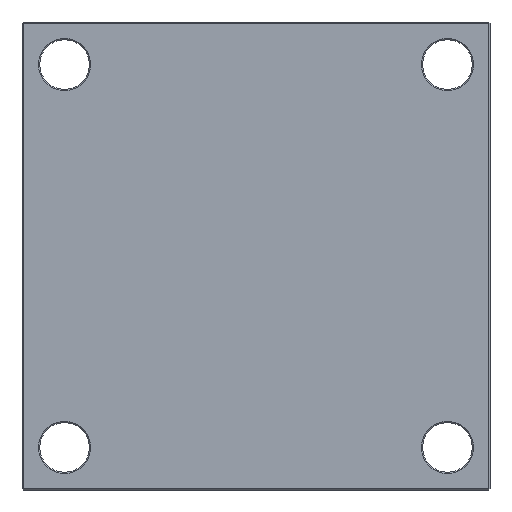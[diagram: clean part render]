
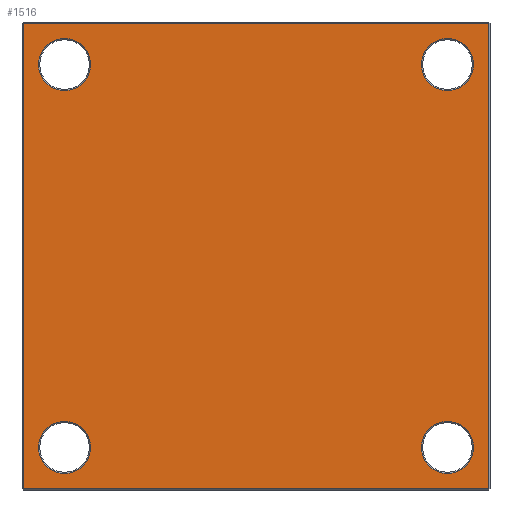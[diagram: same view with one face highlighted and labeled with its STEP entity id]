
A CAD part, front view. The second image highlights one B-rep face of the part: STEP entity #1516.
In plain terms, the highlighted planar face has unit normal (0, -1, 0).
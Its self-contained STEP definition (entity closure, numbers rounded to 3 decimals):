
#7 = CARTESIAN_POINT ( 'NONE',  ( 162., 0., 162. ) ) ;
#16 = CARTESIAN_POINT ( 'NONE',  ( -197., 0., 197. ) ) ;
#17 = DIRECTION ( 'NONE',  ( 0., 0., 1. ) ) ;
#24 = CARTESIAN_POINT ( 'NONE',  ( 0., 0., 0. ) ) ;
#32 = VERTEX_POINT ( 'NONE', #2122 ) ;
#47 = CARTESIAN_POINT ( 'NONE',  ( -162., 0., 184. ) ) ;
#68 = CARTESIAN_POINT ( 'NONE',  ( -162., 0., -162. ) ) ;
#94 = DIRECTION ( 'NONE',  ( 0., 0., 1. ) ) ;
#118 = EDGE_CURVE ( 'NONE', #127, #1581, #414, .T. ) ;
#122 = CARTESIAN_POINT ( 'NONE',  ( -197., 0., 0. ) ) ;
#127 = VERTEX_POINT ( 'NONE', #967 ) ;
#175 = FACE_BOUND ( 'NONE', #1759, .T. ) ;
#181 = EDGE_CURVE ( 'NONE', #965, #127, #853, .T. ) ;
#204 = VERTEX_POINT ( 'NONE', #1360 ) ;
#243 = VECTOR ( 'NONE', #727, 1000. ) ;
#272 = AXIS2_PLACEMENT_3D ( 'NONE', #24, #1150, #17 ) ;
#308 = DIRECTION ( 'NONE',  ( 0., 0., -1. ) ) ;
#315 = VERTEX_POINT ( 'NONE', #1723 ) ;
#321 = EDGE_CURVE ( 'NONE', #1581, #620, #472, .T. ) ;
#322 = AXIS2_PLACEMENT_3D ( 'NONE', #1856, #1851, #1844 ) ;
#324 = AXIS2_PLACEMENT_3D ( 'NONE', #68, #600, #94 ) ;
#361 = CARTESIAN_POINT ( 'NONE',  ( 162., 0., -140. ) ) ;
#414 = LINE ( 'NONE', #1763, #243 ) ;
#454 = VECTOR ( 'NONE', #1941, 1000. ) ;
#472 = LINE ( 'NONE', #1904, #454 ) ;
#524 = EDGE_CURVE ( 'NONE', #1217, #204, #1951, .T. ) ;
#541 = VERTEX_POINT ( 'NONE', #1803 ) ;
#555 = VECTOR ( 'NONE', #857, 1000. ) ;
#564 = ORIENTED_EDGE ( 'NONE', *, *, #321, .T. ) ;
#579 = AXIS2_PLACEMENT_3D ( 'NONE', #7, #1822, #1233 ) ;
#585 = ORIENTED_EDGE ( 'NONE', *, *, #1961, .T. ) ;
#594 = ORIENTED_EDGE ( 'NONE', *, *, #118, .T. ) ;
#595 = EDGE_CURVE ( 'NONE', #315, #541, #1303, .T. ) ;
#600 = DIRECTION ( 'NONE',  ( 0., 1., 0. ) ) ;
#611 = CIRCLE ( 'NONE', #324, 22. ) ;
#615 = EDGE_CURVE ( 'NONE', #620, #965, #1447, .T. ) ;
#620 = VERTEX_POINT ( 'NONE', #16 ) ;
#632 = ORIENTED_EDGE ( 'NONE', *, *, #755, .T. ) ;
#642 = EDGE_LOOP ( 'NONE', ( #585, #1041 ) ) ;
#657 = PLANE ( 'NONE',  #272 ) ;
#682 = DIRECTION ( 'NONE',  ( 0., 1., 0. ) ) ;
#696 = FACE_BOUND ( 'NONE', #642, .T. ) ;
#725 = EDGE_LOOP ( 'NONE', ( #594, #564, #1731, #1396 ) ) ;
#727 = DIRECTION ( 'NONE',  ( 0., 0., 1. ) ) ;
#755 = EDGE_CURVE ( 'NONE', #541, #315, #1650, .T. ) ;
#771 = CIRCLE ( 'NONE', #322, 22. ) ;
#796 = CIRCLE ( 'NONE', #1887, 22. ) ;
#831 = DIRECTION ( 'NONE',  ( 0., 0., 1. ) ) ;
#853 = LINE ( 'NONE', #856, #555 ) ;
#855 = DIRECTION ( 'NONE',  ( 0., 1., 0. ) ) ;
#856 = CARTESIAN_POINT ( 'NONE',  ( 0., 0., -197. ) ) ;
#857 = DIRECTION ( 'NONE',  ( 1., 0., 0. ) ) ;
#942 = ORIENTED_EDGE ( 'NONE', *, *, #1526, .T. ) ;
#965 = VERTEX_POINT ( 'NONE', #1705 ) ;
#967 = CARTESIAN_POINT ( 'NONE',  ( 197., 0., -197. ) ) ;
#981 = CARTESIAN_POINT ( 'NONE',  ( 162., 0., -162. ) ) ;
#995 = CARTESIAN_POINT ( 'NONE',  ( 162., 0., 162. ) ) ;
#1004 = ORIENTED_EDGE ( 'NONE', *, *, #1309, .T. ) ;
#1005 = ORIENTED_EDGE ( 'NONE', *, *, #1152, .T. ) ;
#1010 = CARTESIAN_POINT ( 'NONE',  ( 197., 0., 197. ) ) ;
#1016 = AXIS2_PLACEMENT_3D ( 'NONE', #1149, #1634, #1989 ) ;
#1041 = ORIENTED_EDGE ( 'NONE', *, *, #524, .T. ) ;
#1050 = VERTEX_POINT ( 'NONE', #361 ) ;
#1054 = ORIENTED_EDGE ( 'NONE', *, *, #1412, .T. ) ;
#1134 = CARTESIAN_POINT ( 'NONE',  ( -162., 0., 162. ) ) ;
#1149 = CARTESIAN_POINT ( 'NONE',  ( -162., 0., 162. ) ) ;
#1150 = DIRECTION ( 'NONE',  ( 0., 1., 0. ) ) ;
#1152 = EDGE_CURVE ( 'NONE', #2083, #32, #611, .T. ) ;
#1198 = DIRECTION ( 'NONE',  ( 0., 0., 1. ) ) ;
#1217 = VERTEX_POINT ( 'NONE', #47 ) ;
#1233 = DIRECTION ( 'NONE',  ( 0., 0., 1. ) ) ;
#1237 = CIRCLE ( 'NONE', #1633, 22. ) ;
#1289 = AXIS2_PLACEMENT_3D ( 'NONE', #995, #682, #1198 ) ;
#1303 = CIRCLE ( 'NONE', #579, 22. ) ;
#1308 = VERTEX_POINT ( 'NONE', #1801 ) ;
#1309 = EDGE_CURVE ( 'NONE', #1308, #1050, #1957, .T. ) ;
#1357 = DIRECTION ( 'NONE',  ( 0., 1., 0. ) ) ;
#1360 = CARTESIAN_POINT ( 'NONE',  ( -162., 0., 140. ) ) ;
#1364 = EDGE_LOOP ( 'NONE', ( #1601, #632 ) ) ;
#1396 = ORIENTED_EDGE ( 'NONE', *, *, #181, .T. ) ;
#1397 = VECTOR ( 'NONE', #308, 1000. ) ;
#1399 = DIRECTION ( 'NONE',  ( 0., 0., 1. ) ) ;
#1412 = EDGE_CURVE ( 'NONE', #1050, #1308, #796, .T. ) ;
#1447 = LINE ( 'NONE', #122, #1397 ) ;
#1516 = ADVANCED_FACE ( 'NONE', ( #2108, #175, #1858, #696, #1825 ), #657, .F. ) ;
#1526 = EDGE_CURVE ( 'NONE', #32, #2083, #771, .T. ) ;
#1581 = VERTEX_POINT ( 'NONE', #1010 ) ;
#1597 = CARTESIAN_POINT ( 'NONE',  ( 162., 0., -162. ) ) ;
#1601 = ORIENTED_EDGE ( 'NONE', *, *, #595, .T. ) ;
#1602 = DIRECTION ( 'NONE',  ( 0., 0., 1. ) ) ;
#1607 = DIRECTION ( 'NONE',  ( 0., 1., 0. ) ) ;
#1633 = AXIS2_PLACEMENT_3D ( 'NONE', #1134, #1357, #1399 ) ;
#1634 = DIRECTION ( 'NONE',  ( 0., 1., 0. ) ) ;
#1650 = CIRCLE ( 'NONE', #1289, 22. ) ;
#1705 = CARTESIAN_POINT ( 'NONE',  ( -197., 0., -197. ) ) ;
#1723 = CARTESIAN_POINT ( 'NONE',  ( 162., 0., 140. ) ) ;
#1731 = ORIENTED_EDGE ( 'NONE', *, *, #615, .T. ) ;
#1738 = EDGE_LOOP ( 'NONE', ( #1005, #942 ) ) ;
#1759 = EDGE_LOOP ( 'NONE', ( #1004, #1054 ) ) ;
#1763 = CARTESIAN_POINT ( 'NONE',  ( 197., 0., 0. ) ) ;
#1801 = CARTESIAN_POINT ( 'NONE',  ( 162., 0., -184. ) ) ;
#1803 = CARTESIAN_POINT ( 'NONE',  ( 162., 0., 184. ) ) ;
#1822 = DIRECTION ( 'NONE',  ( 0., 1., 0. ) ) ;
#1825 = FACE_OUTER_BOUND ( 'NONE', #725, .T. ) ;
#1844 = DIRECTION ( 'NONE',  ( 0., 0., 1. ) ) ;
#1851 = DIRECTION ( 'NONE',  ( 0., 1., 0. ) ) ;
#1856 = CARTESIAN_POINT ( 'NONE',  ( -162., 0., -162. ) ) ;
#1858 = FACE_BOUND ( 'NONE', #1364, .T. ) ;
#1887 = AXIS2_PLACEMENT_3D ( 'NONE', #981, #855, #831 ) ;
#1904 = CARTESIAN_POINT ( 'NONE',  ( 0., 0., 197. ) ) ;
#1941 = DIRECTION ( 'NONE',  ( -1., 0., 0. ) ) ;
#1951 = CIRCLE ( 'NONE', #1016, 22. ) ;
#1957 = CIRCLE ( 'NONE', #2148, 22. ) ;
#1961 = EDGE_CURVE ( 'NONE', #204, #1217, #1237, .T. ) ;
#1989 = DIRECTION ( 'NONE',  ( 0., 0., 1. ) ) ;
#2057 = CARTESIAN_POINT ( 'NONE',  ( -162., 0., -184. ) ) ;
#2083 = VERTEX_POINT ( 'NONE', #2057 ) ;
#2108 = FACE_BOUND ( 'NONE', #1738, .T. ) ;
#2122 = CARTESIAN_POINT ( 'NONE',  ( -162., 0., -140. ) ) ;
#2148 = AXIS2_PLACEMENT_3D ( 'NONE', #1597, #1607, #1602 ) ;
